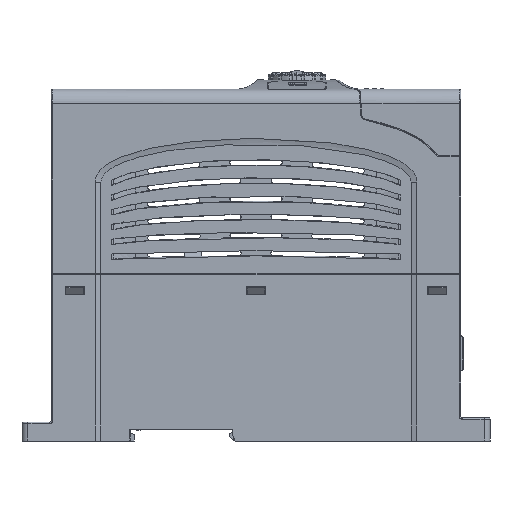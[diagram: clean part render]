
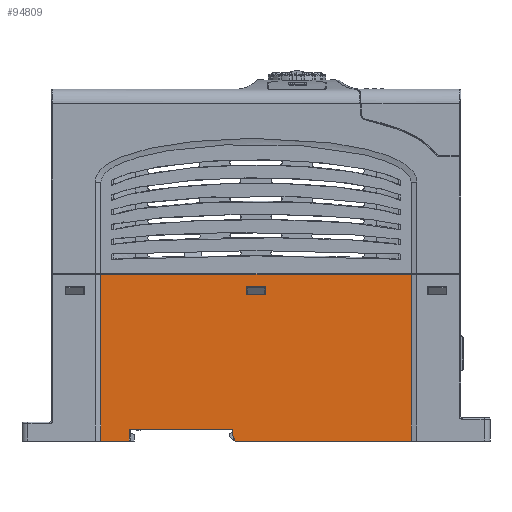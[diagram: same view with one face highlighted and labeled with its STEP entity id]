
A CAD part, left-side view. The second image highlights one B-rep face of the part: STEP entity #94809.
In plain terms, the highlighted planar face has unit normal (-1, 0, 0).
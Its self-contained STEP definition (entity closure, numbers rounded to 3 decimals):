
#61630=DIRECTION('',(0.,1.,0.));
#61631=VECTOR('',#61630,106.);
#61632=CARTESIAN_POINT('',(-39.5,17.,21.));
#61633=LINE('',#61632,#61631);
#62195=DIRECTION('',(0.,0.,1.));
#62196=VECTOR('',#62195,2.);
#62197=CARTESIAN_POINT('',(-39.5,78.,-34.));
#62198=LINE('',#62197,#62196);
#62199=DIRECTION('',(0.,0.,-1.));
#62200=VECTOR('',#62199,4.);
#62201=CARTESIAN_POINT('',(-39.5,113.4,-32.));
#62202=LINE('',#62201,#62200);
#62203=DIRECTION('',(0.,0.,1.));
#62204=VECTOR('',#62203,57.);
#62205=CARTESIAN_POINT('',(-39.5,123.,-36.));
#62206=LINE('',#62205,#62204);
#62207=DIRECTION('',(0.,0.,-1.));
#62208=VECTOR('',#62207,57.);
#62209=CARTESIAN_POINT('',(-39.5,17.,21.));
#62210=LINE('',#62209,#62208);
#62211=DIRECTION('',(0.,0.447,0.894));
#62212=VECTOR('',#62211,2.236);
#62213=CARTESIAN_POINT('',(-39.5,77.,-36.));
#62214=LINE('',#62213,#62212);
#62378=DIRECTION('',(0.,-1.,0.));
#62379=VECTOR('',#62378,60.);
#62380=CARTESIAN_POINT('',(-39.5,77.,-36.));
#62381=LINE('',#62380,#62379);
#66746=DIRECTION('',(0.,-1.,0.));
#66747=VECTOR('',#66746,9.6);
#66748=CARTESIAN_POINT('',(-39.5,123.,-36.));
#66749=LINE('',#66748,#66747);
#68969=DIRECTION('',(0.,0.,1.));
#68970=VECTOR('',#68969,3.);
#68971=CARTESIAN_POINT('',(-39.5,73.25,14.));
#68972=LINE('',#68971,#68970);
#68977=DIRECTION('',(0.,-1.,0.));
#68978=VECTOR('',#68977,6.5);
#68979=CARTESIAN_POINT('',(-39.5,73.25,17.));
#68980=LINE('',#68979,#68978);
#68989=DIRECTION('',(0.,0.,-1.));
#68990=VECTOR('',#68989,3.);
#68991=CARTESIAN_POINT('',(-39.5,66.75,17.));
#68992=LINE('',#68991,#68990);
#68997=DIRECTION('',(0.,1.,0.));
#68998=VECTOR('',#68997,6.5);
#68999=CARTESIAN_POINT('',(-39.5,66.75,14.));
#69000=LINE('',#68999,#68998);
#71771=DIRECTION('',(0.,-1.,0.));
#71772=VECTOR('',#71771,35.4);
#71773=CARTESIAN_POINT('',(-39.5,113.4,-32.));
#71774=LINE('',#71773,#71772);
#87243=CARTESIAN_POINT('',(-39.5,17.,21.));
#87244=VERTEX_POINT('',#87243);
#87245=CARTESIAN_POINT('',(-39.5,123.,21.));
#87246=VERTEX_POINT('',#87245);
#87539=CARTESIAN_POINT('',(-39.5,123.,-36.));
#87540=VERTEX_POINT('',#87539);
#87541=CARTESIAN_POINT('',(-39.5,78.,-34.));
#87542=CARTESIAN_POINT('',(-39.5,78.,-32.));
#87543=VERTEX_POINT('',#87541);
#87544=VERTEX_POINT('',#87542);
#87545=CARTESIAN_POINT('',(-39.5,113.4,-32.));
#87546=VERTEX_POINT('',#87545);
#87547=CARTESIAN_POINT('',(-39.5,113.4,-36.));
#87548=VERTEX_POINT('',#87547);
#87549=CARTESIAN_POINT('',(-39.5,17.,-36.));
#87550=VERTEX_POINT('',#87549);
#87551=CARTESIAN_POINT('',(-39.5,77.,-36.));
#87552=VERTEX_POINT('',#87551);
#87553=CARTESIAN_POINT('',(-39.5,73.25,14.));
#87554=CARTESIAN_POINT('',(-39.5,73.25,17.));
#87555=VERTEX_POINT('',#87553);
#87556=VERTEX_POINT('',#87554);
#87557=CARTESIAN_POINT('',(-39.5,66.75,14.));
#87558=VERTEX_POINT('',#87557);
#87559=CARTESIAN_POINT('',(-39.5,66.75,17.));
#87560=VERTEX_POINT('',#87559);
#94776=CARTESIAN_POINT('',(-39.5,70.,-7.5));
#94777=DIRECTION('',(1.,0.,0.));
#94778=DIRECTION('',(0.,0.,-1.));
#94779=AXIS2_PLACEMENT_3D('',#94776,#94777,#94778);
#94780=PLANE('',#94779);
#94782=ORIENTED_EDGE('',*,*,#94781,.T.);
#94784=ORIENTED_EDGE('',*,*,#94783,.F.);
#94786=ORIENTED_EDGE('',*,*,#94785,.T.);
#94788=ORIENTED_EDGE('',*,*,#94787,.F.);
#94789=ORIENTED_EDGE('',*,*,#94768,.T.);
#94790=ORIENTED_EDGE('',*,*,#94210,.F.);
#94792=ORIENTED_EDGE('',*,*,#94791,.T.);
#94794=ORIENTED_EDGE('',*,*,#94793,.F.);
#94796=ORIENTED_EDGE('',*,*,#94795,.T.);
#94797=EDGE_LOOP('',(#94782,#94784,#94786,#94788,#94789,#94790,#94792,#94794,
#94796));
#94798=FACE_OUTER_BOUND('',#94797,.F.);
#94800=ORIENTED_EDGE('',*,*,#94799,.F.);
#94802=ORIENTED_EDGE('',*,*,#94801,.F.);
#94804=ORIENTED_EDGE('',*,*,#94803,.F.);
#94806=ORIENTED_EDGE('',*,*,#94805,.F.);
#94807=EDGE_LOOP('',(#94800,#94802,#94804,#94806));
#94808=FACE_BOUND('',#94807,.F.);
#94210=EDGE_CURVE('',#87244,#87246,#61633,.T.);
#94768=EDGE_CURVE('',#87540,#87246,#62206,.T.);
#94781=EDGE_CURVE('',#87543,#87544,#62198,.T.);
#94783=EDGE_CURVE('',#87546,#87544,#71774,.T.);
#94785=EDGE_CURVE('',#87546,#87548,#62202,.T.);
#94787=EDGE_CURVE('',#87540,#87548,#66749,.T.);
#94791=EDGE_CURVE('',#87244,#87550,#62210,.T.);
#94793=EDGE_CURVE('',#87552,#87550,#62381,.T.);
#94795=EDGE_CURVE('',#87552,#87543,#62214,.T.);
#94799=EDGE_CURVE('',#87555,#87556,#68972,.T.);
#94801=EDGE_CURVE('',#87558,#87555,#69000,.T.);
#94803=EDGE_CURVE('',#87560,#87558,#68992,.T.);
#94805=EDGE_CURVE('',#87556,#87560,#68980,.T.);
#94809=ADVANCED_FACE('',(#94798,#94808),#94780,.F.);
